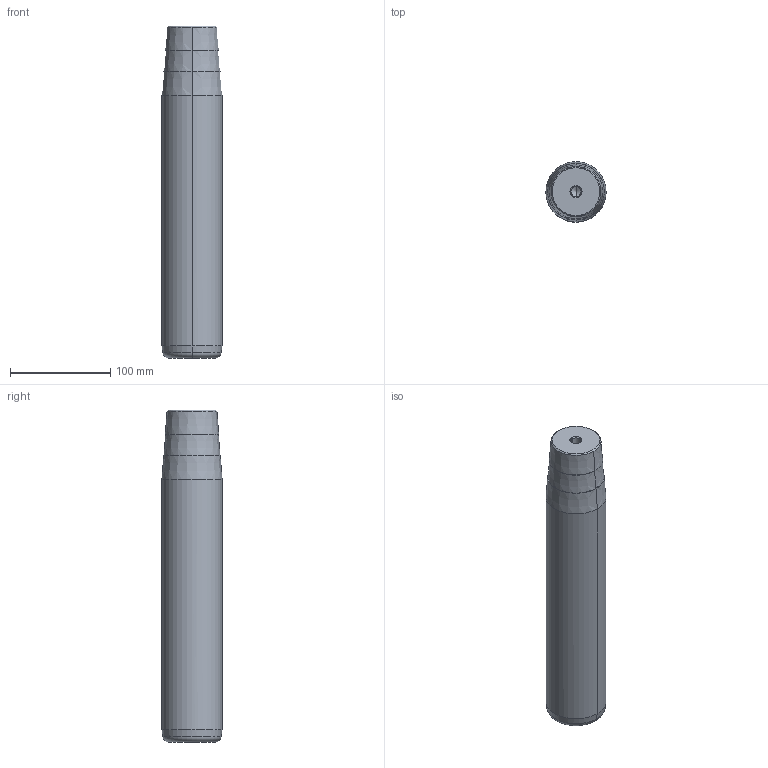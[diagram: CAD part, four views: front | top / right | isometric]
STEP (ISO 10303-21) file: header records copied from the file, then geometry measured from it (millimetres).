
FILE_DESCRIPTION(('CATIA V5 STEP Exchange'),'2;1');
FILE_NAME('C:\Users\Utente\Desktop\IO LAVORO\3D X SITO CF\X SITO\722\722-60x280x331.stp','2021-01-07T19:29:22+00:00',('none'),('none'),'CATIA Version 5 Release 20 GA (IN-10)','CATIA V5 STEP AP203','none');
FILE_SCHEMA(('CONFIG_CONTROL_DESIGN'));
Length unit declared in the file: millimetre
Products named in the file (1): 722-60x280x331
Bounding box: 60 x 60 x 331 mm (x, y, z)
Volume: 895985.8 mm3; surface area: 67139.3 mm2
Topology: 1 solids, 1 shells, 32 faces, 98 edges, 66 vertices
Faces by surface type: cone 22, cylinder 6, plane 2, torus 2
Entity records: 1172 total; most frequent: CARTESIAN_POINT 285, ORIENTED_EDGE 188, DIRECTION 148, EDGE_CURVE 94, AXIS2_PLACEMENT_3D 89, VERTEX_POINT 66, CIRCLE 56, EDGE_LOOP 34
